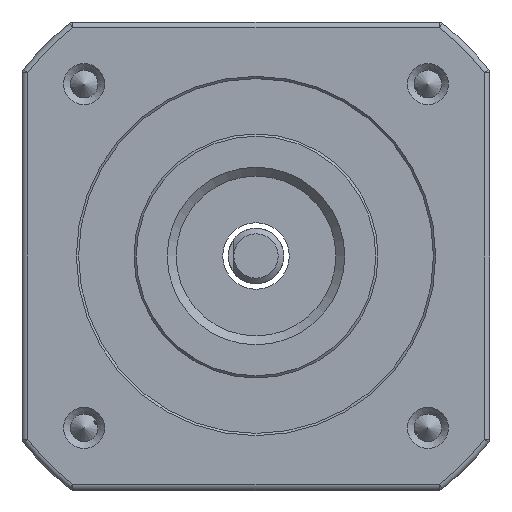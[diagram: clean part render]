
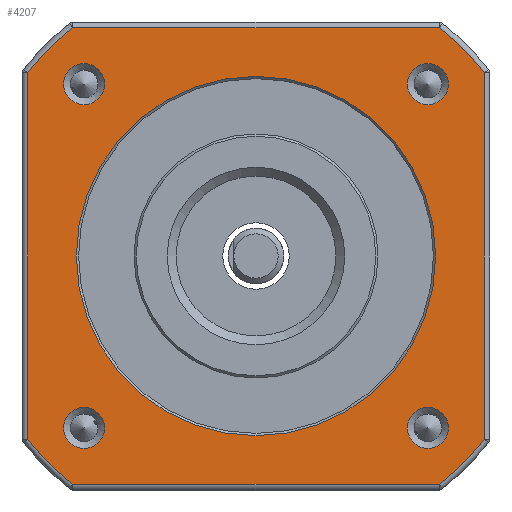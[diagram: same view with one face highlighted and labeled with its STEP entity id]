
A CAD part, left-side view. The second image highlights one B-rep face of the part: STEP entity #4207.
In plain terms, the highlighted planar face has unit normal (-1, 0, 0).
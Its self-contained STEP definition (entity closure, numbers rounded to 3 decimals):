
#241 = DIRECTION ( 'NONE',  ( 1., 0., 0. ) ) ;
#336 = CIRCLE ( 'NONE', #7569, 1.85 ) ;
#338 = DIRECTION ( 'NONE',  ( 1., 0., 0. ) ) ;
#379 = DIRECTION ( 'NONE',  ( 0., 0., -1. ) ) ;
#599 = CIRCLE ( 'NONE', #4295, 1.85 ) ;
#765 = EDGE_LOOP ( 'NONE', ( #4707 ) ) ;
#890 = EDGE_LOOP ( 'NONE', ( #6625 ) ) ;
#917 = CIRCLE ( 'NONE', #5746, 1.85 ) ;
#985 = VERTEX_POINT ( 'NONE', #4893 ) ;
#988 = ORIENTED_EDGE ( 'NONE', *, *, #1730, .T. ) ;
#1046 = CARTESIAN_POINT ( 'NONE',  ( 0., 15.5, -17.35 ) ) ;
#1053 = VERTEX_POINT ( 'NONE', #4989 ) ;
#1251 = EDGE_CURVE ( 'NONE', #8933, #8933, #4692, .T. ) ;
#1305 = AXIS2_PLACEMENT_3D ( 'NONE', #8024, #3648, #6460 ) ;
#1328 = EDGE_CURVE ( 'NONE', #1053, #5606, #7791, .T. ) ;
#1444 = CARTESIAN_POINT ( 'NONE',  ( 0., 20.6, 16.511 ) ) ;
#1461 = CARTESIAN_POINT ( 'NONE',  ( 0., 15.5, 15.5 ) ) ;
#1630 = EDGE_LOOP ( 'NONE', ( #2548 ) ) ;
#1730 = EDGE_CURVE ( 'NONE', #6281, #4660, #8169, .T. ) ;
#1815 = DIRECTION ( 'NONE',  ( -1., 0., 0. ) ) ;
#1845 = CIRCLE ( 'NONE', #2231, 26.4 ) ;
#1865 = VERTEX_POINT ( 'NONE', #6044 ) ;
#1896 = ORIENTED_EDGE ( 'NONE', *, *, #7424, .T. ) ;
#2114 = VERTEX_POINT ( 'NONE', #9164 ) ;
#2117 = DIRECTION ( 'NONE',  ( 1., 0., 0. ) ) ;
#2120 = CARTESIAN_POINT ( 'NONE',  ( 0., 0., 0. ) ) ;
#2151 = DIRECTION ( 'NONE',  ( 1., 0., 0. ) ) ;
#2187 = ORIENTED_EDGE ( 'NONE', *, *, #1328, .T. ) ;
#2222 = FACE_BOUND ( 'NONE', #5823, .T. ) ;
#2231 = AXIS2_PLACEMENT_3D ( 'NONE', #3920, #1815, #6101 ) ;
#2370 = PLANE ( 'NONE',  #4152 ) ;
#2548 = ORIENTED_EDGE ( 'NONE', *, *, #1251, .T. ) ;
#2718 = DIRECTION ( 'NONE',  ( 0., 0., -1. ) ) ;
#2800 = VECTOR ( 'NONE', #4068, 1000. ) ;
#3053 = CARTESIAN_POINT ( 'NONE',  ( 0., 16.685, 20.6 ) ) ;
#3172 = CARTESIAN_POINT ( 'NONE',  ( 0., -15.5, -17.35 ) ) ;
#3211 = ORIENTED_EDGE ( 'NONE', *, *, #5634, .T. ) ;
#3317 = DIRECTION ( 'NONE',  ( 0., -1., 0. ) ) ;
#3514 = DIRECTION ( 'NONE',  ( -1., 0., 0. ) ) ;
#3540 = DIRECTION ( 'NONE',  ( 0., 0., -1. ) ) ;
#3543 = DIRECTION ( 'NONE',  ( 0., 0., -1. ) ) ;
#3621 = AXIS2_PLACEMENT_3D ( 'NONE', #8655, #2151, #3540 ) ;
#3648 = DIRECTION ( 'NONE',  ( -1., 0., 0. ) ) ;
#3821 = EDGE_CURVE ( 'NONE', #7580, #1865, #9161, .T. ) ;
#3914 = CARTESIAN_POINT ( 'NONE',  ( 0., 15.5, 13.65 ) ) ;
#3920 = CARTESIAN_POINT ( 'NONE',  ( 0., 0., 0. ) ) ;
#3923 = FACE_BOUND ( 'NONE', #7239, .T. ) ;
#3985 = EDGE_CURVE ( 'NONE', #985, #2114, #5389, .T. ) ;
#3993 = CARTESIAN_POINT ( 'NONE',  ( 0., -15.5, 15.5 ) ) ;
#3995 = CARTESIAN_POINT ( 'NONE',  ( 0., 15.5, -15.5 ) ) ;
#4046 = EDGE_CURVE ( 'NONE', #5606, #985, #7812, .T. ) ;
#4068 = DIRECTION ( 'NONE',  ( 0., 0., 1. ) ) ;
#4142 = AXIS2_PLACEMENT_3D ( 'NONE', #3995, #9072, #8506 ) ;
#4152 = AXIS2_PLACEMENT_3D ( 'NONE', #5933, #241, #7511 ) ;
#4154 = FACE_BOUND ( 'NONE', #1630, .T. ) ;
#4179 = ORIENTED_EDGE ( 'NONE', *, *, #4046, .T. ) ;
#4207 = ADVANCED_FACE ( 'NONE', ( #4495, #6306, #3923, #5380, #4154, #2222 ), #2370, .F. ) ;
#4295 = AXIS2_PLACEMENT_3D ( 'NONE', #1461, #2117, #5721 ) ;
#4338 = DIRECTION ( 'NONE',  ( 0., 1., 0. ) ) ;
#4495 = FACE_OUTER_BOUND ( 'NONE', #8787, .T. ) ;
#4660 = VERTEX_POINT ( 'NONE', #8222 ) ;
#4692 = CIRCLE ( 'NONE', #4142, 1.85 ) ;
#4707 = ORIENTED_EDGE ( 'NONE', *, *, #6291, .T. ) ;
#4719 = AXIS2_PLACEMENT_3D ( 'NONE', #2120, #5086, #6498 ) ;
#4893 = CARTESIAN_POINT ( 'NONE',  ( 0., -20.6, -16.511 ) ) ;
#4896 = CIRCLE ( 'NONE', #4719, 26.4 ) ;
#4950 = VERTEX_POINT ( 'NONE', #3914 ) ;
#4989 = CARTESIAN_POINT ( 'NONE',  ( 0., 16.511, -20.6 ) ) ;
#5086 = DIRECTION ( 'NONE',  ( -1., 0., 0. ) ) ;
#5188 = EDGE_CURVE ( 'NONE', #5732, #5732, #336, .T. ) ;
#5291 = AXIS2_PLACEMENT_3D ( 'NONE', #7141, #3514, #3543 ) ;
#5328 = CARTESIAN_POINT ( 'NONE',  ( 0., 0., -16.2 ) ) ;
#5345 = CIRCLE ( 'NONE', #3621, 16.2 ) ;
#5380 = FACE_BOUND ( 'NONE', #765, .T. ) ;
#5389 = LINE ( 'NONE', #8410, #2800 ) ;
#5399 = CARTESIAN_POINT ( 'NONE',  ( 0., -15.5, -15.5 ) ) ;
#5595 = CARTESIAN_POINT ( 'NONE',  ( 0., 20.6, -16.685 ) ) ;
#5606 = VERTEX_POINT ( 'NONE', #7835 ) ;
#5634 = EDGE_CURVE ( 'NONE', #1865, #1053, #7189, .T. ) ;
#5721 = DIRECTION ( 'NONE',  ( 0., 0., -1. ) ) ;
#5732 = VERTEX_POINT ( 'NONE', #3172 ) ;
#5746 = AXIS2_PLACEMENT_3D ( 'NONE', #3993, #9070, #379 ) ;
#5823 = EDGE_LOOP ( 'NONE', ( #7167 ) ) ;
#5933 = CARTESIAN_POINT ( 'NONE',  ( 0., 16., 0. ) ) ;
#6044 = CARTESIAN_POINT ( 'NONE',  ( 0., 20.6, -16.511 ) ) ;
#6101 = DIRECTION ( 'NONE',  ( 0., 0., -1. ) ) ;
#6180 = ORIENTED_EDGE ( 'NONE', *, *, #3821, .T. ) ;
#6221 = VECTOR ( 'NONE', #4338, 1000. ) ;
#6281 = VERTEX_POINT ( 'NONE', #6496 ) ;
#6291 = EDGE_CURVE ( 'NONE', #4950, #4950, #599, .T. ) ;
#6306 = FACE_BOUND ( 'NONE', #890, .T. ) ;
#6460 = DIRECTION ( 'NONE',  ( 0., 0., -1. ) ) ;
#6496 = CARTESIAN_POINT ( 'NONE',  ( 0., -16.511, 20.6 ) ) ;
#6498 = DIRECTION ( 'NONE',  ( 0., 0., -1. ) ) ;
#6625 = ORIENTED_EDGE ( 'NONE', *, *, #5188, .T. ) ;
#6687 = EDGE_CURVE ( 'NONE', #2114, #6281, #1845, .T. ) ;
#6756 = DIRECTION ( 'NONE',  ( 0., 0., -1. ) ) ;
#6999 = VERTEX_POINT ( 'NONE', #8954 ) ;
#7141 = CARTESIAN_POINT ( 'NONE',  ( 0., 0., 0. ) ) ;
#7167 = ORIENTED_EDGE ( 'NONE', *, *, #7544, .T. ) ;
#7189 = CIRCLE ( 'NONE', #1305, 26.4 ) ;
#7239 = EDGE_LOOP ( 'NONE', ( #9352 ) ) ;
#7269 = EDGE_CURVE ( 'NONE', #6999, #6999, #917, .T. ) ;
#7320 = VECTOR ( 'NONE', #3317, 1000. ) ;
#7424 = EDGE_CURVE ( 'NONE', #4660, #7580, #4896, .T. ) ;
#7511 = DIRECTION ( 'NONE',  ( 0., 0., -1. ) ) ;
#7544 = EDGE_CURVE ( 'NONE', #8819, #8819, #5345, .T. ) ;
#7569 = AXIS2_PLACEMENT_3D ( 'NONE', #5399, #338, #6756 ) ;
#7580 = VERTEX_POINT ( 'NONE', #1444 ) ;
#7788 = CARTESIAN_POINT ( 'NONE',  ( 0., -16.685, -20.6 ) ) ;
#7791 = LINE ( 'NONE', #7788, #7320 ) ;
#7812 = CIRCLE ( 'NONE', #5291, 26.4 ) ;
#7835 = CARTESIAN_POINT ( 'NONE',  ( 0., -16.511, -20.6 ) ) ;
#8024 = CARTESIAN_POINT ( 'NONE',  ( 0., 0., 0. ) ) ;
#8169 = LINE ( 'NONE', #3053, #6221 ) ;
#8222 = CARTESIAN_POINT ( 'NONE',  ( 0., 16.511, 20.6 ) ) ;
#8410 = CARTESIAN_POINT ( 'NONE',  ( 0., -20.6, 16.685 ) ) ;
#8415 = ORIENTED_EDGE ( 'NONE', *, *, #3985, .T. ) ;
#8482 = ORIENTED_EDGE ( 'NONE', *, *, #6687, .T. ) ;
#8506 = DIRECTION ( 'NONE',  ( 0., 0., -1. ) ) ;
#8655 = CARTESIAN_POINT ( 'NONE',  ( 0., 0., 0. ) ) ;
#8787 = EDGE_LOOP ( 'NONE', ( #8482, #988, #1896, #6180, #3211, #2187, #4179, #8415 ) ) ;
#8819 = VERTEX_POINT ( 'NONE', #5328 ) ;
#8930 = VECTOR ( 'NONE', #2718, 1000. ) ;
#8933 = VERTEX_POINT ( 'NONE', #1046 ) ;
#8954 = CARTESIAN_POINT ( 'NONE',  ( 0., -15.5, 13.65 ) ) ;
#9070 = DIRECTION ( 'NONE',  ( 1., 0., 0. ) ) ;
#9072 = DIRECTION ( 'NONE',  ( 1., 0., 0. ) ) ;
#9161 = LINE ( 'NONE', #5595, #8930 ) ;
#9164 = CARTESIAN_POINT ( 'NONE',  ( 0., -20.6, 16.511 ) ) ;
#9352 = ORIENTED_EDGE ( 'NONE', *, *, #7269, .T. ) ;
